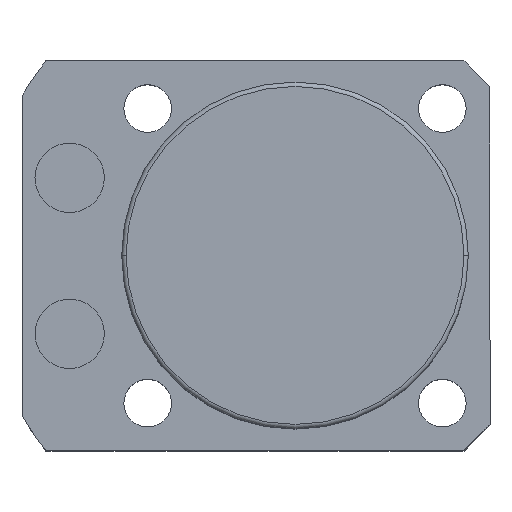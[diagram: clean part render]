
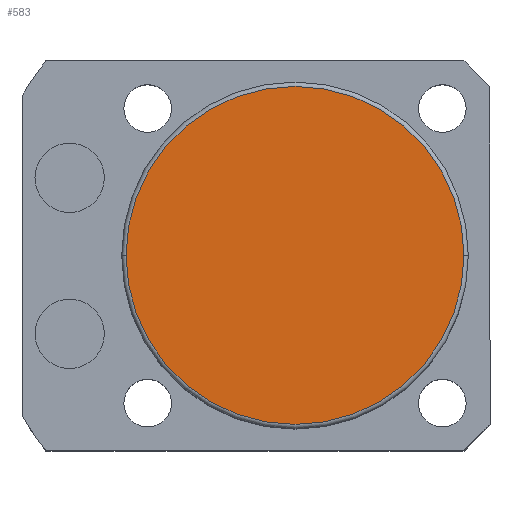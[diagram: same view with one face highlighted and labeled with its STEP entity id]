
A CAD part, top view. The second image highlights one B-rep face of the part: STEP entity #583.
In plain terms, the highlighted planar face has unit normal (0, 0, 1).
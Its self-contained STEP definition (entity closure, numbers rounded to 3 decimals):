
#89 = ORIENTED_EDGE ( 'NONE', *, *, #997, .T. ) ;
#223 = CARTESIAN_POINT ( 'NONE',  ( 0., 0., 38.5 ) ) ;
#251 = CARTESIAN_POINT ( 'NONE',  ( -19.5, 0., 38.5 ) ) ;
#330 = PLANE ( 'NONE',  #2128 ) ;
#419 = DIRECTION ( 'NONE',  ( 0., 0., 1. ) ) ;
#472 = CARTESIAN_POINT ( 'NONE',  ( 19.5, 0., 38.5 ) ) ;
#583 = ADVANCED_FACE ( 'NONE', ( #1649 ), #330, .T. ) ;
#827 = DIRECTION ( 'NONE',  ( 1., 0., 0. ) ) ;
#845 = DIRECTION ( 'NONE',  ( 0., 0., 1. ) ) ;
#887 = CIRCLE ( 'NONE', #965, 19.5 ) ;
#965 = AXIS2_PLACEMENT_3D ( 'NONE', #223, #419, #827 ) ;
#997 = EDGE_CURVE ( 'NONE', #1168, #1189, #1146, .T. ) ;
#1114 = CARTESIAN_POINT ( 'NONE',  ( 0., 0., 38.5 ) ) ;
#1146 = CIRCLE ( 'NONE', #1499, 19.5 ) ;
#1168 = VERTEX_POINT ( 'NONE', #251 ) ;
#1172 = ORIENTED_EDGE ( 'NONE', *, *, #2235, .T. ) ;
#1189 = VERTEX_POINT ( 'NONE', #472 ) ;
#1292 = EDGE_LOOP ( 'NONE', ( #1172, #89 ) ) ;
#1309 = DIRECTION ( 'NONE',  ( 1., 0., 0. ) ) ;
#1499 = AXIS2_PLACEMENT_3D ( 'NONE', #2014, #845, #2404 ) ;
#1649 = FACE_OUTER_BOUND ( 'NONE', #1292, .T. ) ;
#1889 = DIRECTION ( 'NONE',  ( 0., 0., 1. ) ) ;
#2014 = CARTESIAN_POINT ( 'NONE',  ( 0., 0., 38.5 ) ) ;
#2128 = AXIS2_PLACEMENT_3D ( 'NONE', #1114, #1889, #1309 ) ;
#2235 = EDGE_CURVE ( 'NONE', #1189, #1168, #887, .T. ) ;
#2404 = DIRECTION ( 'NONE',  ( 1., 0., 0. ) ) ;
